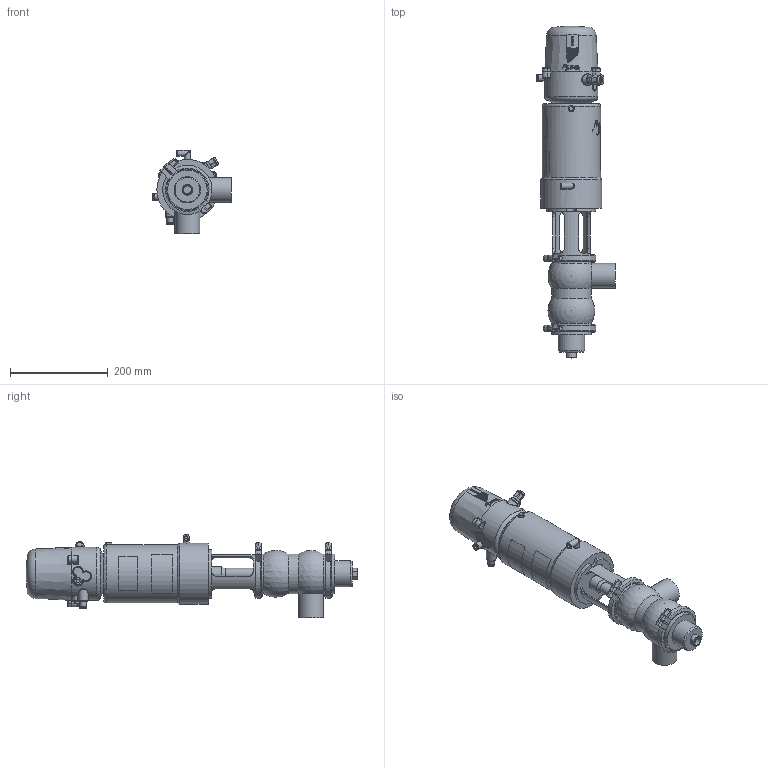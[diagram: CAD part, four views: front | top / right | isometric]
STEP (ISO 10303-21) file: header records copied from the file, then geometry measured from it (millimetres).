
FILE_DESCRIPTION (( 'STEP AP214' ), '1' );
FILE_NAME ('INNOVA S DB-90 W OD 2 & C-TOP S_10.251.16.0018.STEP', '2024-08-19T10:16:37', ( '' ), ( '' ), 'SwSTEP 2.0', 'SolidWorks 2023', '' );
FILE_SCHEMA (( 'AUTOMOTIVE_DESIGN' ));
Length unit declared in the file: millimetre
Products named in the file (7): 10.250.15.0002_Type S T1; 10.251.15.0001_OD 2"; 10.251.15.0002_DN 2"; 10.251.15.0010_OD 2"; 10.426.15.0001_C-TOP S - 1 EV; 10.240.15.0001_DN 050; INNOVA S DB-90 W OD 2 & C-TOP S_10.251.16.0018
Assembly tree (7 placements, depth 2):
  INNOVA S DB-90 W OD 2 & C-TOP S_10.251.16.0018
    10.251.15.0001_OD 2"
    10.250.15.0002_Type S T1
    10.426.15.0001_C-TOP S - 1 EV
    10.251.15.0010_OD 2"
    10.240.15.0001_DN 050  x2
    10.251.15.0002_DN 2"
Bounding box: 161 x 680 x 171 mm (x, y, z)
Volume: 5188302.8 mm3; surface area: 384055.4 mm2
Topology: 7 solids, 7 shells, 1186 faces, 2865 edges, 1902 vertices
Faces by surface type: plane 413, cylinder 370, cone 202, bspline 160, torus 33, sphere 8
Full cylindrical faces by diameter (mm): 0.371 x17, 0.512 x16, 0.658 x16, 0.795 x16, 0.94 x15, 1.098 x15, 1.241 x13, 1.382 x13, 1.523 x11, 1.669 x10, 2.201 x1, 4.2 x2, 5 x1, 5.5 x2, 6 x3, 6.15 x1, 8 x5, 8.5 x1, 10 x1, 10.5 x2, 11 x2, 12.5 x6, 13 x2, 13.5 x2, 16 x1, 17 x3, 20 x2, 22 x2, 23 x1, 28 x1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
Entity records: 58224 total; most frequent: CARTESIAN_POINT 27460, ORIENTED_EDGE 4596, DIRECTION 3703, EDGE_CURVE 2298, VERTEX_POINT 1625, EDGE_LOOP 1577, AXIS2_PLACEMENT_3D 1509, FACE_OUTER_BOUND 1340
